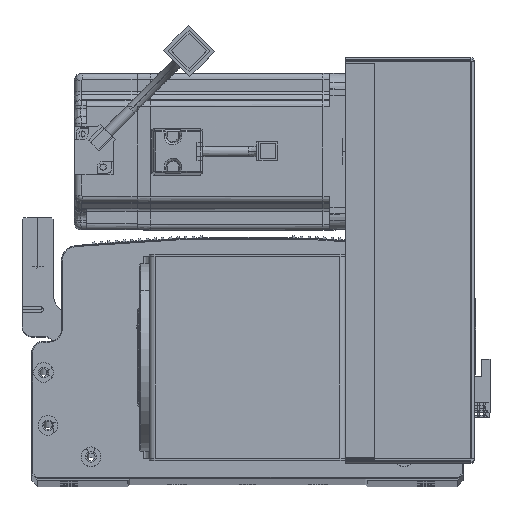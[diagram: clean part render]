
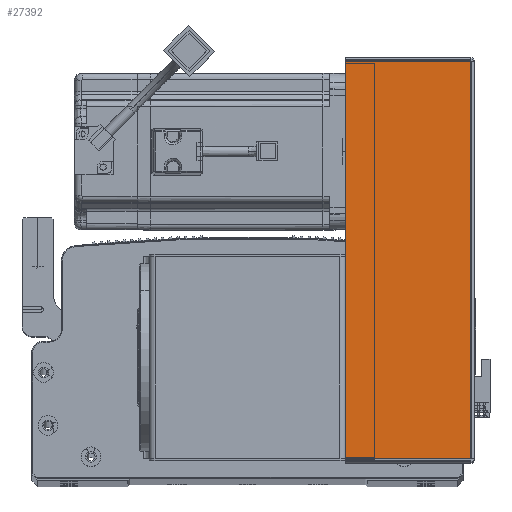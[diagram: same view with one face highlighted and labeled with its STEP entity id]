
A CAD part, top view. The second image highlights one B-rep face of the part: STEP entity #27392.
In plain terms, the highlighted planar face has unit normal (0, 0, 1) as drawn and (0, -1, 0) by its records, which use the part's own axes.
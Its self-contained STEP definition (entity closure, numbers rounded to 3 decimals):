
#1417 = DIRECTION ( 'NONE',  ( 0., 0., 1. ) ) ;
#5813 = CARTESIAN_POINT ( 'NONE',  ( 0., -1.5, -203.293 ) ) ;
#7051 = VECTOR ( 'NONE', #25126, 1000. ) ;
#9656 = EDGE_CURVE ( 'NONE', #73998, #25611, #18958, .T. ) ;
#11559 = CARTESIAN_POINT ( 'NONE',  ( 0., -1.5, -0.707 ) ) ;
#12040 = VERTEX_POINT ( 'NONE', #47540 ) ;
#12528 = LINE ( 'NONE', #35718, #50897 ) ;
#12869 = EDGE_CURVE ( 'NONE', #25611, #34661, #53168, .T. ) ;
#16558 = EDGE_LOOP ( 'NONE', ( #90445, #31924, #51169, #84108 ) ) ;
#18958 = LINE ( 'NONE', #85182, #90248 ) ;
#19986 = CARTESIAN_POINT ( 'NONE',  ( 0.737, -1.5, -0.707 ) ) ;
#20351 = CARTESIAN_POINT ( 'NONE',  ( 0., -1.5, 0. ) ) ;
#22766 = CARTESIAN_POINT ( 'NONE',  ( 0.737, -1.5, -203.293 ) ) ;
#24449 = AXIS2_PLACEMENT_3D ( 'NONE', #20351, #90928, #62613 ) ;
#25126 = DIRECTION ( 'NONE',  ( 1., 0., 0. ) ) ;
#25611 = VERTEX_POINT ( 'NONE', #19986 ) ;
#27392 = ADVANCED_FACE ( 'NONE', ( #34445 ), #48234, .F. ) ;
#31924 = ORIENTED_EDGE ( 'NONE', *, *, #86506, .T. ) ;
#34445 = FACE_OUTER_BOUND ( 'NONE', #16558, .T. ) ;
#34661 = VERTEX_POINT ( 'NONE', #47933 ) ;
#35718 = CARTESIAN_POINT ( 'NONE',  ( 64.5, -1.5, 0. ) ) ;
#47540 = CARTESIAN_POINT ( 'NONE',  ( 64.5, -1.5, -203.293 ) ) ;
#47933 = CARTESIAN_POINT ( 'NONE',  ( 64.5, -1.5, -0.707 ) ) ;
#48234 = PLANE ( 'NONE',  #24449 ) ;
#48611 = LINE ( 'NONE', #5813, #67246 ) ;
#50897 = VECTOR ( 'NONE', #84458, 1000. ) ;
#51169 = ORIENTED_EDGE ( 'NONE', *, *, #51311, .T. ) ;
#51311 = EDGE_CURVE ( 'NONE', #12040, #34661, #12528, .T. ) ;
#53168 = LINE ( 'NONE', #11559, #7051 ) ;
#62613 = DIRECTION ( 'NONE',  ( -1., 0., 0. ) ) ;
#67246 = VECTOR ( 'NONE', #77250, 1000. ) ;
#73998 = VERTEX_POINT ( 'NONE', #22766 ) ;
#77250 = DIRECTION ( 'NONE',  ( 1., 0., 0. ) ) ;
#84108 = ORIENTED_EDGE ( 'NONE', *, *, #12869, .F. ) ;
#84458 = DIRECTION ( 'NONE',  ( 0., 0., 1. ) ) ;
#85182 = CARTESIAN_POINT ( 'NONE',  ( 0.737, -1.5, 0. ) ) ;
#86506 = EDGE_CURVE ( 'NONE', #73998, #12040, #48611, .T. ) ;
#90248 = VECTOR ( 'NONE', #1417, 1000. ) ;
#90445 = ORIENTED_EDGE ( 'NONE', *, *, #9656, .F. ) ;
#90928 = DIRECTION ( 'NONE',  ( 0., 1., 0. ) ) ;
